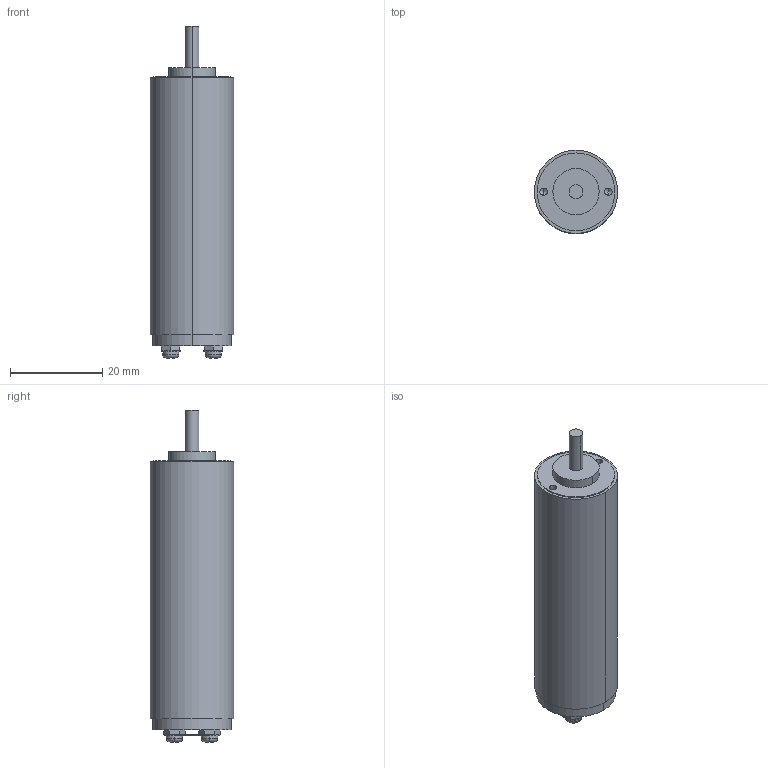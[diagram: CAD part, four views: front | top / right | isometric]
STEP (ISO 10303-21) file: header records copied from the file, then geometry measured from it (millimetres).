
FILE_DESCRIPTION (( 'STEP AP214' ), '1' );
FILE_NAME ('NC-1858.STEP', '2024-11-12T07:23:51', ( '' ), ( '' ), 'SwSTEP 2.0', 'SolidWorks 2024', '' );
FILE_SCHEMA (( 'AUTOMOTIVE_DESIGN' ));
Length unit declared in the file: millimetre
Products named in the file (1): NC-1858
Bounding box: 18 x 18 x 71.8 mm (x, y, z)
Volume: 15016.7 mm3; surface area: 4179.5 mm2
Topology: 1 solids, 1 shells, 104 faces, 262 edges, 166 vertices
Faces by surface type: plane 70, cylinder 26, torus 4, cone 4
Entity records: 3141 total; most frequent: CARTESIAN_POINT 621, ORIENTED_EDGE 516, DIRECTION 516, EDGE_CURVE 258, AXIS2_PLACEMENT_3D 181, VERTEX_POINT 166, VECTOR 154, LINE 154
